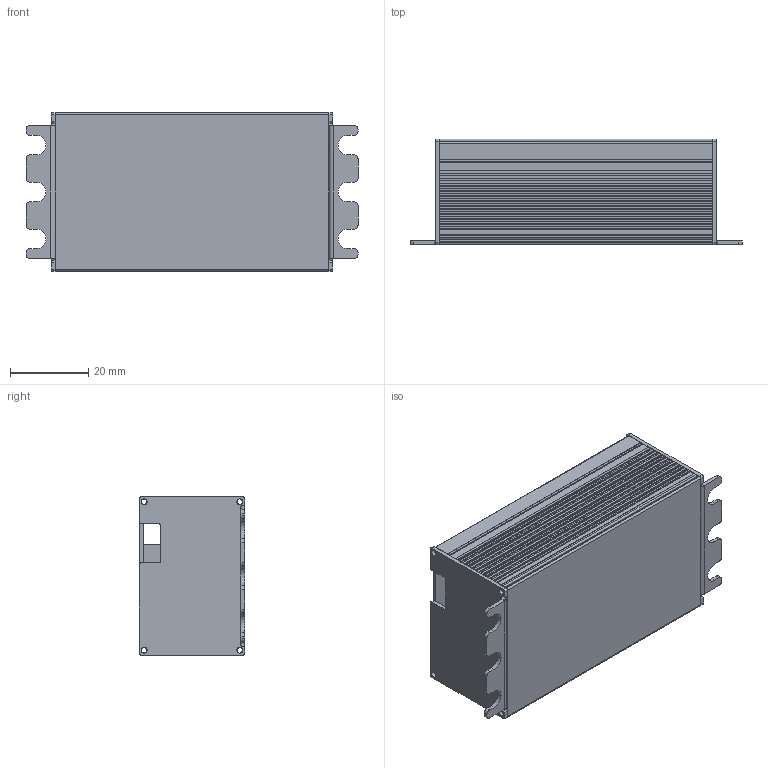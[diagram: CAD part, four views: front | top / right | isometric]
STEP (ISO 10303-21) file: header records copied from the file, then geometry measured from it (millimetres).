
FILE_DESCRIPTION((''),'2;1');
FILE_NAME('MTB_CASE_L85_241223_ASM_1_ASM','2025-08-13T18:16:00',('Administrator'),(''),'CREO PARAMETRIC BY PTC INC, 2020053','CREO PARAMETRIC BY PTC INC, 2020053','');
FILE_SCHEMA(('CONFIG_CONTROL_DESIGN','SHAPE_APPEARANCE_LAYERS_GROUPS'));
Length unit declared in the file: inch
Products named in the file (7): MTB_XINGCAI_BOTTOM_L70_1_1; MTB_XINGCAI_TOP_L70_1_1; MTB_XINGCAI_CEGAI_SHUCHU_1_1; MTB_XINGCAI_CEGAI_SHURU_1_1; MTB_DIANPIAN; MTB_CASE_L85_ASM_1_ASM_1_ASM; MTB_CASE_L85_241223_ASM_1_ASM
Assembly tree (6 placements, depth 3):
  MTB_CASE_L85_241223_ASM_1_ASM
    MTB_CASE_L85_ASM_1_ASM_1_ASM
      MTB_XINGCAI_BOTTOM_L70_1_1
      MTB_XINGCAI_TOP_L70_1_1
      MTB_XINGCAI_CEGAI_SHUCHU_1_1
      MTB_XINGCAI_CEGAI_SHURU_1_1
      MTB_DIANPIAN
Bounding box: 85 x 27 x 40.5 mm (x, y, z)
Volume: 11072.2 mm3; surface area: 26462.8 mm2
Topology: 5 solids, 5 shells, 364 faces, 1085 edges, 731 vertices
Faces by surface type: plane 214, cylinder 146, bspline 4
Entity records: 18602 total; most frequent: CARTESIAN_POINT 2495, ORIENTED_EDGE 2170, DIRECTION 2163, PRESENTATION_STYLE_ASSIGNMENT 1395, STYLED_ITEM 1395, EDGE_CURVE 1085, CURVE_STYLE 1043, VECTOR 745
